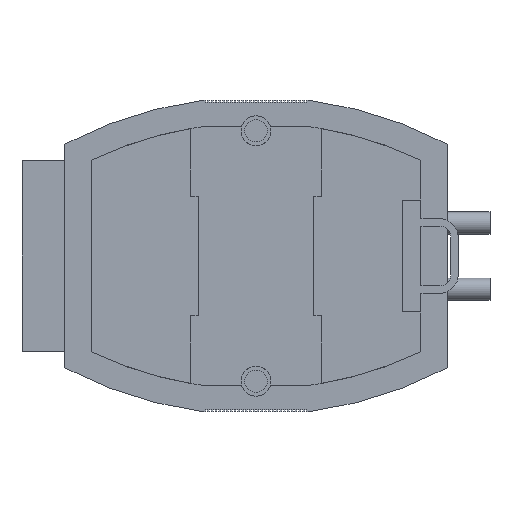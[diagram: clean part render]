
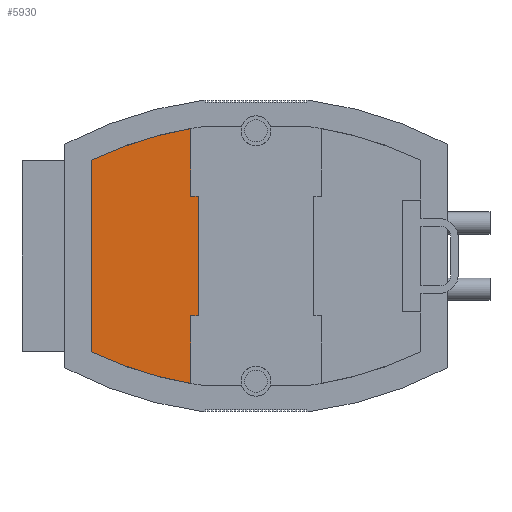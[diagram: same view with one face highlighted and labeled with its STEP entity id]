
A CAD part, front view. The second image highlights one B-rep face of the part: STEP entity #5930.
In plain terms, the highlighted planar face has unit normal (0, -1, 0).
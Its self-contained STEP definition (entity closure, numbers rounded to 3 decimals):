
#345 = ORIENTED_EDGE ( 'NONE', *, *, #13049, .F. ) ;
#364 = CARTESIAN_POINT ( 'NONE',  ( -17.5, -8., 16. ) ) ;
#895 = VECTOR ( 'NONE', #13129, 1000. ) ;
#1581 = DIRECTION ( 'NONE',  ( 0., 0., -1. ) ) ;
#1645 = VECTOR ( 'NONE', #26966, 1000. ) ;
#2535 = EDGE_CURVE ( 'NONE', #17866, #11272, #26482, .T. ) ;
#2740 = LINE ( 'NONE', #364, #1645 ) ;
#3112 = CARTESIAN_POINT ( 'NONE',  ( -15.5, -8., -16. ) ) ;
#4193 = DIRECTION ( 'NONE',  ( 0., 0., -1. ) ) ;
#4336 = DIRECTION ( 'NONE',  ( 0., -1., 0. ) ) ;
#4475 = LINE ( 'NONE', #14650, #29399 ) ;
#4557 = EDGE_CURVE ( 'NONE', #18486, #17866, #4475, .T. ) ;
#5923 = CARTESIAN_POINT ( 'NONE',  ( -17.5, -8., 34.145 ) ) ;
#5930 = ADVANCED_FACE ( 'NONE', ( #21104 ), #30207, .T. ) ;
#6171 = DIRECTION ( 'NONE',  ( 0., -1., 0. ) ) ;
#7320 = LINE ( 'NONE', #13237, #895 ) ;
#7334 = CARTESIAN_POINT ( 'NONE',  ( -17.5, -8., 16. ) ) ;
#7661 = CARTESIAN_POINT ( 'NONE',  ( -17.5, -8., 34.145 ) ) ;
#7922 = VECTOR ( 'NONE', #24742, 1000. ) ;
#8270 = ORIENTED_EDGE ( 'NONE', *, *, #28852, .F. ) ;
#8999 = CARTESIAN_POINT ( 'NONE',  ( -17.5, -8., -16. ) ) ;
#9377 = EDGE_CURVE ( 'NONE', #21032, #18486, #21598, .T. ) ;
#10261 = CARTESIAN_POINT ( 'NONE',  ( -15.5, -8., 16. ) ) ;
#10762 = CARTESIAN_POINT ( 'NONE',  ( 0., -8., 67.358 ) ) ;
#11272 = VERTEX_POINT ( 'NONE', #19202 ) ;
#11522 = VERTEX_POINT ( 'NONE', #11835 ) ;
#11698 = ORIENTED_EDGE ( 'NONE', *, *, #4557, .T. ) ;
#11835 = CARTESIAN_POINT ( 'NONE',  ( -17.5, -8., -16. ) ) ;
#11888 = LINE ( 'NONE', #8999, #28822 ) ;
#13049 = EDGE_CURVE ( 'NONE', #23773, #28693, #29720, .T. ) ;
#13129 = DIRECTION ( 'NONE',  ( -1., 0., 0. ) ) ;
#13237 = CARTESIAN_POINT ( 'NONE',  ( -15.5, -8., -16. ) ) ;
#14650 = CARTESIAN_POINT ( 'NONE',  ( -44.2, -8., -25.676 ) ) ;
#14916 = ORIENTED_EDGE ( 'NONE', *, *, #28513, .F. ) ;
#15143 = LINE ( 'NONE', #7661, #7922 ) ;
#17404 = CARTESIAN_POINT ( 'NONE',  ( 0., -8., 67.358 ) ) ;
#17625 = AXIS2_PLACEMENT_3D ( 'NONE', #10762, #6171, #20787 ) ;
#17866 = VERTEX_POINT ( 'NONE', #26331 ) ;
#17989 = EDGE_CURVE ( 'NONE', #21032, #22877, #15143, .T. ) ;
#18330 = ORIENTED_EDGE ( 'NONE', *, *, #2535, .T. ) ;
#18486 = VERTEX_POINT ( 'NONE', #25981 ) ;
#19202 = CARTESIAN_POINT ( 'NONE',  ( -17.5, -8., -34.145 ) ) ;
#19472 = AXIS2_PLACEMENT_3D ( 'NONE', #21688, #4336, #28414 ) ;
#20787 = DIRECTION ( 'NONE',  ( 0., 0., -1. ) ) ;
#21032 = VERTEX_POINT ( 'NONE', #5923 ) ;
#21104 = FACE_OUTER_BOUND ( 'NONE', #31018, .T. ) ;
#21120 = ORIENTED_EDGE ( 'NONE', *, *, #17989, .F. ) ;
#21598 = CIRCLE ( 'NONE', #19472, 103. ) ;
#21688 = CARTESIAN_POINT ( 'NONE',  ( 0., -8., -67.358 ) ) ;
#21811 = DIRECTION ( 'NONE',  ( 0., 0., -1. ) ) ;
#21949 = EDGE_CURVE ( 'NONE', #22877, #23773, #2740, .T. ) ;
#22251 = DIRECTION ( 'NONE',  ( 0., 0., -1. ) ) ;
#22877 = VERTEX_POINT ( 'NONE', #7334 ) ;
#23773 = VERTEX_POINT ( 'NONE', #10261 ) ;
#24742 = DIRECTION ( 'NONE',  ( 0., 0., -1. ) ) ;
#25549 = ORIENTED_EDGE ( 'NONE', *, *, #9377, .T. ) ;
#25981 = CARTESIAN_POINT ( 'NONE',  ( -44.2, -8., 25.676 ) ) ;
#26331 = CARTESIAN_POINT ( 'NONE',  ( -44.2, -8., -25.676 ) ) ;
#26415 = AXIS2_PLACEMENT_3D ( 'NONE', #17404, #29662, #22251 ) ;
#26482 = CIRCLE ( 'NONE', #26415, 103. ) ;
#26966 = DIRECTION ( 'NONE',  ( 1., 0., 0. ) ) ;
#27858 = CARTESIAN_POINT ( 'NONE',  ( -15.5, -8., 16. ) ) ;
#28235 = VECTOR ( 'NONE', #1581, 1000. ) ;
#28414 = DIRECTION ( 'NONE',  ( 0., 0., -1. ) ) ;
#28513 = EDGE_CURVE ( 'NONE', #11522, #11272, #11888, .T. ) ;
#28693 = VERTEX_POINT ( 'NONE', #3112 ) ;
#28822 = VECTOR ( 'NONE', #4193, 1000. ) ;
#28852 = EDGE_CURVE ( 'NONE', #28693, #11522, #7320, .T. ) ;
#28930 = ORIENTED_EDGE ( 'NONE', *, *, #21949, .F. ) ;
#29399 = VECTOR ( 'NONE', #21811, 1000. ) ;
#29662 = DIRECTION ( 'NONE',  ( 0., -1., 0. ) ) ;
#29720 = LINE ( 'NONE', #27858, #28235 ) ;
#30207 = PLANE ( 'NONE',  #17625 ) ;
#31018 = EDGE_LOOP ( 'NONE', ( #14916, #8270, #345, #28930, #21120, #25549, #11698, #18330 ) ) ;
